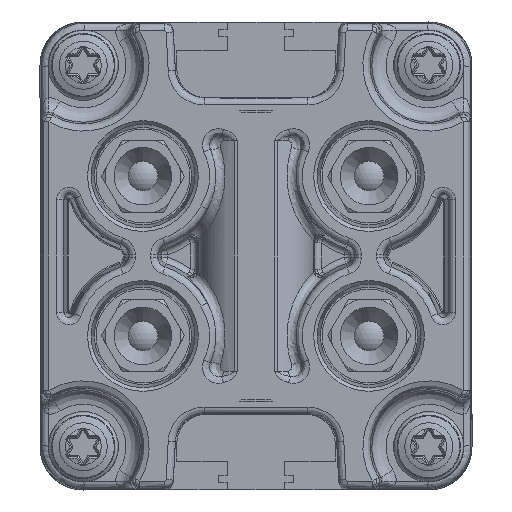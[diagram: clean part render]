
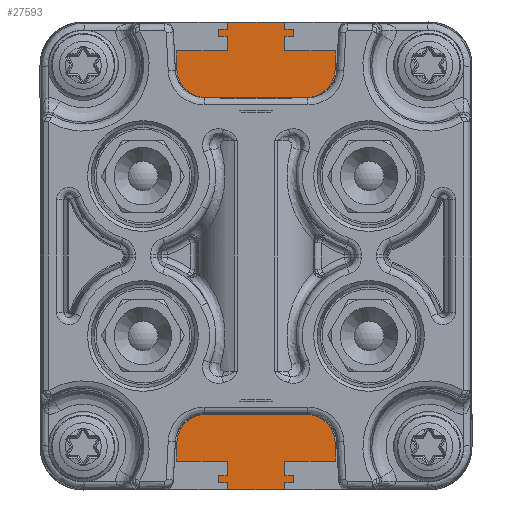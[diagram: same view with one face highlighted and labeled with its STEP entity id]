
A CAD part, left-side view. The second image highlights one B-rep face of the part: STEP entity #27593.
In plain terms, the highlighted planar face has unit normal (-1, 0, 0).
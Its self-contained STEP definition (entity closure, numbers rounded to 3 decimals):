
#27=ELLIPSE('',#29051,6.002,6.);
#34=ELLIPSE('',#29179,6.002,6.);
#38=ELLIPSE('',#29273,6.002,6.);
#44=ELLIPSE('',#29400,6.002,6.);
#2029=LINE('',#39694,#3964);
#2112=LINE('',#47162,#4047);
#2125=LINE('',#48427,#4060);
#2156=LINE('',#50407,#4091);
#2185=LINE('',#52889,#4120);
#2186=LINE('',#52890,#4121);
#2188=LINE('',#52894,#4123);
#2213=LINE('',#55703,#4148);
#2217=LINE('',#55715,#4152);
#2218=LINE('',#55716,#4153);
#2247=LINE('',#58348,#4182);
#2249=LINE('',#58422,#4184);
#3964=VECTOR('',#31759,1000.);
#4047=VECTOR('',#32138,1000.);
#4060=VECTOR('',#32207,1000.);
#4091=VECTOR('',#32330,1000.);
#4120=VECTOR('',#32447,1000.);
#4121=VECTOR('',#32448,1000.);
#4123=VECTOR('',#32452,1000.);
#4148=VECTOR('',#32573,1000.);
#4152=VECTOR('',#32581,1000.);
#4153=VECTOR('',#32582,1000.);
#4182=VECTOR('',#32717,1000.);
#4184=VECTOR('',#32723,1000.);
#5872=PLANE('',#29411);
#8902=ORIENTED_EDGE('',*,*,#15421,.T.);
#8903=ORIENTED_EDGE('',*,*,#15162,.T.);
#8904=ORIENTED_EDGE('',*,*,#15420,.F.);
#8905=ORIENTED_EDGE('',*,*,#15137,.T.);
#8906=ORIENTED_EDGE('',*,*,#15200,.T.);
#8907=ORIENTED_EDGE('',*,*,#14840,.F.);
#8908=ORIENTED_EDGE('',*,*,#15664,.T.);
#8909=ORIENTED_EDGE('',*,*,#14792,.F.);
#8910=ORIENTED_EDGE('',*,*,#15663,.F.);
#8911=ORIENTED_EDGE('',*,*,#15794,.T.);
#8912=ORIENTED_EDGE('',*,*,#15657,.F.);
#8913=ORIENTED_EDGE('',*,*,#15770,.T.);
#8914=ORIENTED_EDGE('',*,*,#15799,.F.);
#8915=ORIENTED_EDGE('',*,*,#15358,.F.);
#8916=ORIENTED_EDGE('',*,*,#15424,.T.);
#8917=ORIENTED_EDGE('',*,*,#15315,.F.);
#8918=ORIENTED_EDGE('',*,*,#14917,.F.);
#8919=ORIENTED_EDGE('',*,*,#15023,.T.);
#8920=ORIENTED_EDGE('',*,*,#15666,.T.);
#8921=ORIENTED_EDGE('',*,*,#15417,.F.);
#8922=ORIENTED_EDGE('',*,*,#15800,.F.);
#14792=EDGE_CURVE('',#18683,#18684,#2029,.T.);
#14840=EDGE_CURVE('',#18715,#18717,#27,.T.);
#14917=EDGE_CURVE('',#18750,#18750,#21120,.T.);
#15023=EDGE_CURVE('',#18812,#18812,#21151,.T.);
#15137=EDGE_CURVE('',#18891,#18890,#34,.T.);
#15162=EDGE_CURVE('',#18881,#18887,#2112,.T.);
#15200=EDGE_CURVE('',#18890,#18717,#2125,.T.);
#15315=EDGE_CURVE('',#18999,#19000,#2156,.T.);
#15358=EDGE_CURVE('',#19021,#19023,#38,.T.);
#15417=EDGE_CURVE('',#19042,#19042,#21217,.T.);
#15420=EDGE_CURVE('',#18891,#18887,#2185,.T.);
#15421=EDGE_CURVE('',#18999,#18881,#2186,.T.);
#15424=EDGE_CURVE('',#19021,#19000,#2188,.T.);
#15657=EDGE_CURVE('',#19235,#19236,#2213,.T.);
#15663=EDGE_CURVE('',#19241,#18683,#2217,.T.);
#15664=EDGE_CURVE('',#18715,#18684,#2218,.T.);
#15666=EDGE_CURVE('',#19243,#19243,#21246,.T.);
#15770=EDGE_CURVE('',#19235,#19308,#44,.T.);
#15794=EDGE_CURVE('',#19241,#19236,#2247,.T.);
#15799=EDGE_CURVE('',#19023,#19308,#2249,.T.);
#15800=EDGE_CURVE('',#19315,#19315,#21268,.T.);
#18683=VERTEX_POINT('',#39693);
#18684=VERTEX_POINT('',#39695);
#18715=VERTEX_POINT('',#41177);
#18717=VERTEX_POINT('',#41180);
#18750=VERTEX_POINT('',#42475);
#18812=VERTEX_POINT('',#44089);
#18881=VERTEX_POINT('',#45646);
#18887=VERTEX_POINT('',#45946);
#18890=VERTEX_POINT('',#46041);
#18891=VERTEX_POINT('',#46043);
#18999=VERTEX_POINT('',#50406);
#19000=VERTEX_POINT('',#50408);
#19021=VERTEX_POINT('',#51766);
#19023=VERTEX_POINT('',#51769);
#19042=VERTEX_POINT('',#52869);
#19235=VERTEX_POINT('',#55702);
#19236=VERTEX_POINT('',#55704);
#19241=VERTEX_POINT('',#55714);
#19243=VERTEX_POINT('',#55721);
#19308=VERTEX_POINT('',#57356);
#19315=VERTEX_POINT('',#58424);
#21120=CIRCLE('',#29087,2.75);
#21151=CIRCLE('',#29141,2.75);
#21217=CIRCLE('',#29304,2.75);
#21246=CIRCLE('',#29359,2.75);
#21268=CIRCLE('',#29412,17.047);
#22571=EDGE_LOOP('',(#8902,#8903,#8904,#8905,#8906,#8907,#8908,#8909,#8910,
#8911,#8912,#8913,#8914,#8915,#8916,#8917));
#22572=EDGE_LOOP('',(#8918));
#22573=EDGE_LOOP('',(#8919));
#22574=EDGE_LOOP('',(#8920));
#22575=EDGE_LOOP('',(#8921));
#22576=EDGE_LOOP('',(#8922));
#24387=FACE_BOUND('',#22571,.T.);
#24388=FACE_BOUND('',#22572,.T.);
#24389=FACE_BOUND('',#22573,.T.);
#24390=FACE_BOUND('',#22574,.T.);
#24391=FACE_BOUND('',#22575,.T.);
#24392=FACE_BOUND('',#22576,.T.);
#27593=ADVANCED_FACE('',(#24387,#24388,#24389,#24390,#24391,#24392),#5872,
 .T.);
#29051=AXIS2_PLACEMENT_3D('',#41179,#31788,#31789);
#29087=AXIS2_PLACEMENT_3D('',#42474,#31885,#31886);
#29141=AXIS2_PLACEMENT_3D('',#44088,#32016,#32017);
#29179=AXIS2_PLACEMENT_3D('',#46042,#32118,#32119);
#29273=AXIS2_PLACEMENT_3D('',#51768,#32358,#32359);
#29304=AXIS2_PLACEMENT_3D('',#52868,#32442,#32443);
#29359=AXIS2_PLACEMENT_3D('',#55720,#32587,#32588);
#29400=AXIS2_PLACEMENT_3D('',#57357,#32695,#32696);
#29411=AXIS2_PLACEMENT_3D('',#58421,#32721,#32722);
#29412=AXIS2_PLACEMENT_3D('',#58423,#32724,#32725);
#31759=DIRECTION('',(0.,-1.,0.));
#31788=DIRECTION('',(1.,0.,0.));
#31789=DIRECTION('',(0.,0.707,-0.707));
#31885=DIRECTION('',(-1.,0.,0.));
#31886=DIRECTION('',(0.,1.,0.));
#32016=DIRECTION('',(1.,0.,0.));
#32017=DIRECTION('',(0.,1.,0.));
#32118=DIRECTION('',(-1.,0.,0.));
#32119=DIRECTION('',(0.,0.707,0.707));
#32138=DIRECTION('',(0.,-1.,0.));
#32207=DIRECTION('',(0.,0.,1.));
#32330=DIRECTION('',(0.,1.,0.));
#32358=DIRECTION('',(1.,0.,0.));
#32359=DIRECTION('',(0.,-0.707,0.707));
#32442=DIRECTION('',(-1.,0.,0.));
#32443=DIRECTION('',(0.,-1.,0.));
#32447=DIRECTION('',(0.,1.,0.));
#32448=DIRECTION('',(0.,-1.,0.));
#32452=DIRECTION('',(0.,-1.,0.));
#32573=DIRECTION('',(0.,-1.,0.));
#32581=DIRECTION('',(0.,-1.,0.));
#32582=DIRECTION('',(0.,1.,0.));
#32587=DIRECTION('',(1.,0.,0.));
#32588=DIRECTION('',(0.,-1.,0.));
#32695=DIRECTION('',(-1.,0.,0.));
#32696=DIRECTION('',(0.,-0.707,-0.707));
#32717=DIRECTION('',(0.,1.,0.));
#32721=DIRECTION('',(-1.,0.,0.));
#32722=DIRECTION('',(0.,-1.,0.));
#32723=DIRECTION('',(0.,0.,1.));
#32724=DIRECTION('',(-1.,0.,0.));
#32725=DIRECTION('',(0.,0.,1.));
#39693=CARTESIAN_POINT('',(0.,-8.5,32.5));
#39694=CARTESIAN_POINT('',(0.,0.,32.5));
#39695=CARTESIAN_POINT('',(0.,-22.035,32.5));
#41177=CARTESIAN_POINT('',(0.,-24.001,32.5));
#41179=CARTESIAN_POINT('',(0.,-23.999,26.499));
#41180=CARTESIAN_POINT('',(0.,-30.,26.501));
#42474=CARTESIAN_POINT('',(0.,-24.,26.5));
#42475=CARTESIAN_POINT('',(0.,-21.25,26.5));
#44088=CARTESIAN_POINT('',(0.,-24.,-26.5));
#44089=CARTESIAN_POINT('',(0.,-21.25,-26.5));
#45646=CARTESIAN_POINT('',(0.,-8.5,-32.5));
#45946=CARTESIAN_POINT('',(0.,-22.035,-32.5));
#46041=CARTESIAN_POINT('',(0.,-30.,-26.501));
#46042=CARTESIAN_POINT('',(0.,-23.999,-26.499));
#46043=CARTESIAN_POINT('',(0.,-24.001,-32.5));
#47162=CARTESIAN_POINT('',(0.,0.,-32.5));
#48427=CARTESIAN_POINT('',(0.,-30.,0.));
#50406=CARTESIAN_POINT('',(0.,8.5,-32.5));
#50407=CARTESIAN_POINT('',(0.,0.,-32.5));
#50408=CARTESIAN_POINT('',(0.,22.035,-32.5));
#51766=CARTESIAN_POINT('',(0.,24.001,-32.5));
#51768=CARTESIAN_POINT('',(0.,23.999,-26.499));
#51769=CARTESIAN_POINT('',(0.,30.,-26.501));
#52868=CARTESIAN_POINT('',(0.,24.,-26.5));
#52869=CARTESIAN_POINT('',(0.,21.25,-26.5));
#52889=CARTESIAN_POINT('',(0.,0.,-32.5));
#52890=CARTESIAN_POINT('',(0.,30.,-32.5));
#52894=CARTESIAN_POINT('',(0.,0.,-32.5));
#55702=CARTESIAN_POINT('',(0.,24.001,32.5));
#55703=CARTESIAN_POINT('',(0.,0.,32.5));
#55704=CARTESIAN_POINT('',(0.,22.035,32.5));
#55714=CARTESIAN_POINT('',(0.,8.5,32.5));
#55715=CARTESIAN_POINT('',(0.,30.,32.5));
#55716=CARTESIAN_POINT('',(0.,0.,32.5));
#55720=CARTESIAN_POINT('',(0.,24.,26.5));
#55721=CARTESIAN_POINT('',(0.,21.25,26.5));
#57356=CARTESIAN_POINT('',(0.,30.,26.501));
#57357=CARTESIAN_POINT('',(0.,23.999,26.499));
#58348=CARTESIAN_POINT('',(0.,0.,32.5));
#58421=CARTESIAN_POINT('',(0.,0.,-0.4));
#58422=CARTESIAN_POINT('',(0.,30.,0.));
#58423=CARTESIAN_POINT('',(0.,0.,0.));
#58424=CARTESIAN_POINT('',(0.,0.,17.047));
